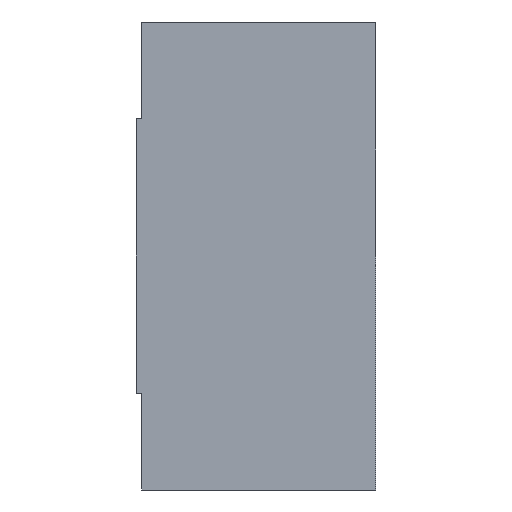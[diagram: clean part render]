
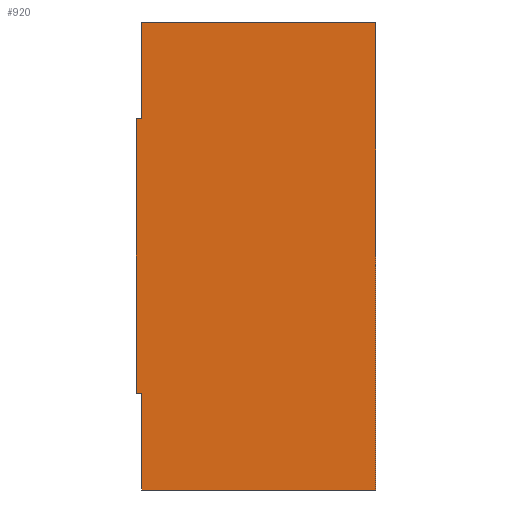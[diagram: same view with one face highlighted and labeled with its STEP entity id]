
A CAD part, left-side view. The second image highlights one B-rep face of the part: STEP entity #920.
In plain terms, the highlighted planar face has unit normal (-1, 0, 0).
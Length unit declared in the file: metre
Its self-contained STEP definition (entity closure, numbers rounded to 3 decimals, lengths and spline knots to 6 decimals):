
#176=ORIENTED_EDGE('',*,*,#320,.T.);
#177=ORIENTED_EDGE('',*,*,#374,.F.);
#178=ORIENTED_EDGE('',*,*,#368,.T.);
#179=ORIENTED_EDGE('',*,*,#364,.T.);
#180=ORIENTED_EDGE('',*,*,#373,.F.);
#181=ORIENTED_EDGE('',*,*,#375,.T.);
#182=ORIENTED_EDGE('',*,*,#323,.F.);
#183=ORIENTED_EDGE('',*,*,#376,.F.);
#320=EDGE_CURVE('',#431,#433,#528,.T.);
#323=EDGE_CURVE('',#436,#437,#531,.T.);
#364=EDGE_CURVE('',#467,#468,#563,.T.);
#368=EDGE_CURVE('',#471,#467,#567,.T.);
#373=EDGE_CURVE('',#474,#468,#572,.T.);
#374=EDGE_CURVE('',#471,#433,#573,.T.);
#375=EDGE_CURVE('',#474,#437,#574,.T.);
#376=EDGE_CURVE('',#431,#436,#575,.T.);
#431=VERTEX_POINT('',#1359);
#433=VERTEX_POINT('',#1363);
#436=VERTEX_POINT('',#1370);
#437=VERTEX_POINT('',#1372);
#467=VERTEX_POINT('',#1459);
#468=VERTEX_POINT('',#1460);
#471=VERTEX_POINT('',#1468);
#474=VERTEX_POINT('',#1476);
#528=LINE('',#1364,#602);
#531=LINE('',#1371,#605);
#563=LINE('',#1458,#637);
#567=LINE('',#1467,#641);
#572=LINE('',#1477,#646);
#573=LINE('',#1479,#647);
#574=LINE('',#1480,#648);
#575=LINE('',#1481,#649);
#602=VECTOR('',#1084,1.);
#605=VECTOR('',#1089,1.);
#637=VECTOR('',#1171,1.);
#641=VECTOR('',#1177,1.);
#646=VECTOR('',#1184,1.);
#647=VECTOR('',#1187,1.);
#648=VECTOR('',#1188,1.);
#649=VECTOR('',#1189,1.);
#698=EDGE_LOOP('',(#176,#177,#178,#179,#180,#181,#182,#183));
#790=FACE_BOUND('',#698,.T.);
#887=PLANE('',#1005);
#920=ADVANCED_FACE('',(#790),#887,.F.);
#1005=AXIS2_PLACEMENT_3D('',#1478,#1185,#1186);
#1084=DIRECTION('',(0.,-1.,0.));
#1089=DIRECTION('',(0.,-1.,0.));
#1171=DIRECTION('',(0.,0.,1.));
#1177=DIRECTION('',(0.,-1.,0.));
#1184=DIRECTION('',(0.,-1.,0.));
#1185=DIRECTION('',(1.,0.,0.));
#1186=DIRECTION('',(0.,0.,-1.));
#1187=DIRECTION('',(0.,0.,1.));
#1188=DIRECTION('',(0.,0.,-1.));
#1189=DIRECTION('',(0.,0.,1.));
#1359=CARTESIAN_POINT('',(0.,0.0235,-0.0365));
#1363=CARTESIAN_POINT('',(0.,0.023,-0.0365));
#1364=CARTESIAN_POINT('',(0.,0.0235,-0.0365));
#1370=CARTESIAN_POINT('',(0.,0.0235,-0.0095));
#1371=CARTESIAN_POINT('',(0.,0.0235,-0.0095));
#1372=CARTESIAN_POINT('',(0.,0.023,-0.0095));
#1458=CARTESIAN_POINT('',(0.,0.,0.));
#1459=CARTESIAN_POINT('',(0.,0.,-0.046));
#1460=CARTESIAN_POINT('',(0.,0.,0.));
#1467=CARTESIAN_POINT('',(0.,0.0235,-0.046));
#1468=CARTESIAN_POINT('',(0.,0.023,-0.046));
#1476=CARTESIAN_POINT('',(0.,0.023,0.));
#1477=CARTESIAN_POINT('',(0.,0.0235,0.));
#1478=CARTESIAN_POINT('',(0.,0.0235,0.));
#1479=CARTESIAN_POINT('',(0.,0.023,-0.046));
#1480=CARTESIAN_POINT('',(0.,0.023,0.));
#1481=CARTESIAN_POINT('',(0.,0.0235,0.));
